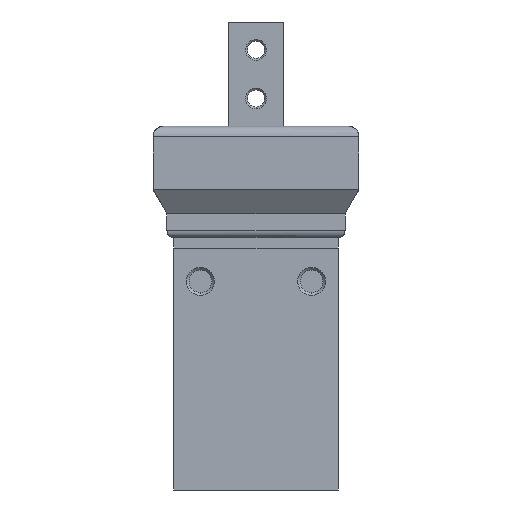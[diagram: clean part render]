
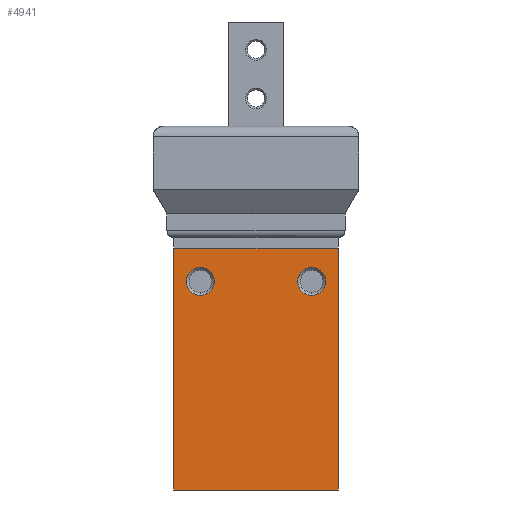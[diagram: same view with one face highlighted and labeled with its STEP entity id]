
A CAD part, left-side view. The second image highlights one B-rep face of the part: STEP entity #4941.
In plain terms, the highlighted planar face has unit normal (-1, 0, 0).
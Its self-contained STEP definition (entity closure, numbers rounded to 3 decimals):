
#97 = DIRECTION ( 'NONE',  ( -1., 0., 0. ) ) ;
#119 = LINE ( 'NONE', #2824, #5360 ) ;
#197 = DIRECTION ( 'NONE',  ( -1., 0., 0. ) ) ;
#248 = DIRECTION ( 'NONE',  ( 1., 0., 0. ) ) ;
#249 = VERTEX_POINT ( 'NONE', #1167 ) ;
#332 = DIRECTION ( 'NONE',  ( 0., 0., -1. ) ) ;
#442 = CIRCLE ( 'NONE', #5135, 2. ) ;
#449 = DIRECTION ( 'NONE',  ( 0., -1., 0. ) ) ;
#665 = DIRECTION ( 'NONE',  ( -1., 0., 0. ) ) ;
#1048 = EDGE_CURVE ( 'NONE', #249, #2081, #2025, .T. ) ;
#1079 = ORIENTED_EDGE ( 'NONE', *, *, #5024, .F. ) ;
#1167 = CARTESIAN_POINT ( 'NONE',  ( -15.3, 8., 32. ) ) ;
#1258 = CARTESIAN_POINT ( 'NONE',  ( -15.3, -11.8, 34.8 ) ) ;
#1420 = CARTESIAN_POINT ( 'NONE',  ( -15.3, -11.8, 0. ) ) ;
#1770 = ORIENTED_EDGE ( 'NONE', *, *, #4269, .F. ) ;
#1841 = EDGE_CURVE ( 'NONE', #4974, #6502, #6075, .T. ) ;
#1943 = CARTESIAN_POINT ( 'NONE',  ( -15.3, 11.8, 34.8 ) ) ;
#2010 = VERTEX_POINT ( 'NONE', #2991 ) ;
#2025 = CIRCLE ( 'NONE', #6027, 2. ) ;
#2081 = VERTEX_POINT ( 'NONE', #2608 ) ;
#2221 = VECTOR ( 'NONE', #332, 1000. ) ;
#2303 = CARTESIAN_POINT ( 'NONE',  ( -15.3, -8., 32. ) ) ;
#2455 = ORIENTED_EDGE ( 'NONE', *, *, #2586, .F. ) ;
#2531 = CARTESIAN_POINT ( 'NONE',  ( -15.3, 11.8, 34.8 ) ) ;
#2586 = EDGE_CURVE ( 'NONE', #6502, #4016, #5287, .T. ) ;
#2608 = CARTESIAN_POINT ( 'NONE',  ( -15.3, 8., 28. ) ) ;
#2816 = CARTESIAN_POINT ( 'NONE',  ( -15.3, -8., 30. ) ) ;
#2824 = CARTESIAN_POINT ( 'NONE',  ( -15.3, 11.8, 0. ) ) ;
#2856 = VECTOR ( 'NONE', #449, 1000. ) ;
#2876 = CARTESIAN_POINT ( 'NONE',  ( -15.3, 11.8, 0. ) ) ;
#2968 = EDGE_LOOP ( 'NONE', ( #4299, #2455, #3938, #6415 ) ) ;
#2991 = CARTESIAN_POINT ( 'NONE',  ( -15.3, -8., 28. ) ) ;
#3004 = DIRECTION ( 'NONE',  ( 0., 0., 1. ) ) ;
#3053 = FACE_BOUND ( 'NONE', #3634, .T. ) ;
#3178 = CARTESIAN_POINT ( 'NONE',  ( -15.3, 11.8, 34.8 ) ) ;
#3368 = ORIENTED_EDGE ( 'NONE', *, *, #4718, .F. ) ;
#3634 = EDGE_LOOP ( 'NONE', ( #1770, #3368 ) ) ;
#3664 = FACE_OUTER_BOUND ( 'NONE', #2968, .T. ) ;
#3702 = FACE_BOUND ( 'NONE', #5509, .T. ) ;
#3938 = ORIENTED_EDGE ( 'NONE', *, *, #1841, .F. ) ;
#4016 = VERTEX_POINT ( 'NONE', #1420 ) ;
#4232 = PLANE ( 'NONE',  #6743 ) ;
#4269 = EDGE_CURVE ( 'NONE', #6533, #2010, #5704, .T. ) ;
#4299 = ORIENTED_EDGE ( 'NONE', *, *, #5077, .T. ) ;
#4419 = DIRECTION ( 'NONE',  ( -1., 0., 0. ) ) ;
#4443 = CARTESIAN_POINT ( 'NONE',  ( -15.3, -8., 30. ) ) ;
#4454 = DIRECTION ( 'NONE',  ( 0., 0., 1. ) ) ;
#4665 = DIRECTION ( 'NONE',  ( 0., 1., 0. ) ) ;
#4671 = AXIS2_PLACEMENT_3D ( 'NONE', #6015, #665, #5039 ) ;
#4718 = EDGE_CURVE ( 'NONE', #2010, #6533, #442, .T. ) ;
#4730 = VERTEX_POINT ( 'NONE', #2876 ) ;
#4941 = ADVANCED_FACE ( 'NONE', ( #3664, #3053, #3702 ), #4232, .F. ) ;
#4969 = VECTOR ( 'NONE', #6940, 1000. ) ;
#4974 = VERTEX_POINT ( 'NONE', #5544 ) ;
#5001 = DIRECTION ( 'NONE',  ( 0., -1., 0. ) ) ;
#5016 = DIRECTION ( 'NONE',  ( 0., 0., 1. ) ) ;
#5024 = EDGE_CURVE ( 'NONE', #2081, #249, #6390, .T. ) ;
#5039 = DIRECTION ( 'NONE',  ( 0., 0., 1. ) ) ;
#5045 = CARTESIAN_POINT ( 'NONE',  ( -15.3, 8., 30. ) ) ;
#5077 = EDGE_CURVE ( 'NONE', #4730, #4016, #119, .T. ) ;
#5135 = AXIS2_PLACEMENT_3D ( 'NONE', #4443, #97, #5016 ) ;
#5287 = LINE ( 'NONE', #6473, #4969 ) ;
#5357 = LINE ( 'NONE', #2531, #2221 ) ;
#5360 = VECTOR ( 'NONE', #5001, 1000. ) ;
#5509 = EDGE_LOOP ( 'NONE', ( #5927, #1079 ) ) ;
#5544 = CARTESIAN_POINT ( 'NONE',  ( -15.3, 11.8, 34.8 ) ) ;
#5704 = CIRCLE ( 'NONE', #6858, 2. ) ;
#5729 = EDGE_CURVE ( 'NONE', #4974, #4730, #5357, .T. ) ;
#5927 = ORIENTED_EDGE ( 'NONE', *, *, #1048, .F. ) ;
#6015 = CARTESIAN_POINT ( 'NONE',  ( -15.3, 8., 30. ) ) ;
#6027 = AXIS2_PLACEMENT_3D ( 'NONE', #5045, #197, #3004 ) ;
#6075 = LINE ( 'NONE', #3178, #2856 ) ;
#6390 = CIRCLE ( 'NONE', #4671, 2. ) ;
#6415 = ORIENTED_EDGE ( 'NONE', *, *, #5729, .T. ) ;
#6473 = CARTESIAN_POINT ( 'NONE',  ( -15.3, -11.8, 34.8 ) ) ;
#6502 = VERTEX_POINT ( 'NONE', #1258 ) ;
#6533 = VERTEX_POINT ( 'NONE', #2303 ) ;
#6743 = AXIS2_PLACEMENT_3D ( 'NONE', #1943, #248, #4665 ) ;
#6858 = AXIS2_PLACEMENT_3D ( 'NONE', #2816, #4419, #4454 ) ;
#6940 = DIRECTION ( 'NONE',  ( 0., 0., -1. ) ) ;
